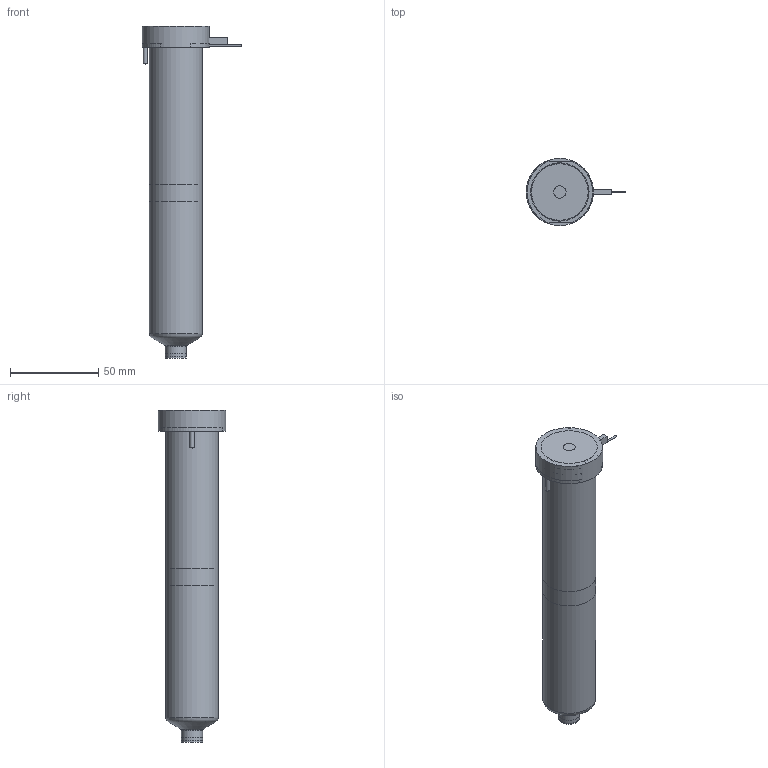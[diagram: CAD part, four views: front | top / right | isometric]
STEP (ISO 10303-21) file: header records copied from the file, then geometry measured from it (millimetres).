
FILE_DESCRIPTION(/* description */ (''),/* implementation_level */ '2;1');
FILE_NAME(/* name */ 'BXTBN-BXIBN-BXOBN16175_250C_b',/* time_stamp */ '2007-01-18T09:57:56+13:00',/* author */ (''),/* organization */ (''),/* preprocessor_version */ 'ST-DEVELOPER v9',/* originating_system */ 'UGS - NX 4.0',/* authorisation */ '');
FILE_SCHEMA (('CONFIG_CONTROL_DESIGN'));
Length unit declared in the file: millimetre
Products named in the file (1): BXTBN-BXIBN-BXOBN16175_250C_b
Bounding box: 56.25 x 38 x 187.78 mm (x, y, z)
Volume: 235742.1 mm3; surface area: 40272.3 mm2
Topology: 6 solids, 6 shells, 74 faces, 147 edges, 95 vertices
Faces by surface type: plane 35, cylinder 23, cone 8, torus 7, bspline 1
Full cylindrical faces by diameter (mm): 1 x4, 2.5 x2, 7 x1, 11.61 x1, 12.01 x2, 14.8 x1, 25.4 x1, 30 x2, 38 x1
Entity records: 1852 total; most frequent: CARTESIAN_POINT 368, DIRECTION 310, ORIENTED_EDGE 220, AXIS2_PLACEMENT_3D 136, EDGE_LOOP 112, EDGE_CURVE 110, VERTEX_POINT 87, ADVANCED_FACE 74
